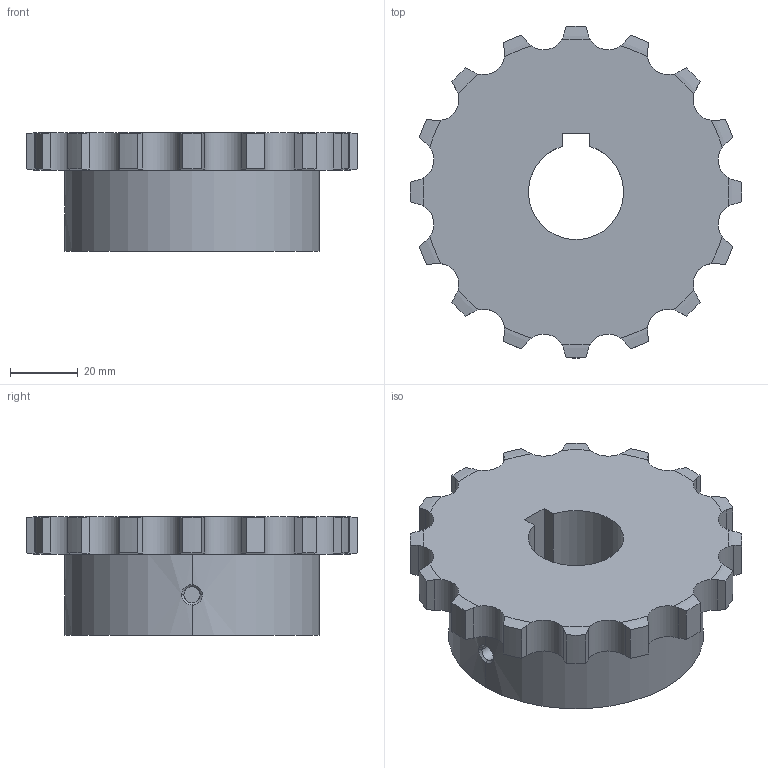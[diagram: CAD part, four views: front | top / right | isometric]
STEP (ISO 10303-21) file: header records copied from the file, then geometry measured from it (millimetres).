
FILE_DESCRIPTION((''),'2;1');
FILE_NAME('510-401-2816_PRT','2021-02-13T',('Brieden'),('Brieden'),'PRO/ENGINEER BY PARAMETRIC TECHNOLOGY CORPORATION, 2010160','PRO/ENGINEER BY PARAMETRIC TECHNOLOGY CORPORATION, 2010160','');
FILE_SCHEMA(('AUTOMOTIVE_DESIGN { 1 0 10303 214 1 1 1 1 }'));
Length unit declared in the file: millimetre
Products named in the file (1): 510-401-2816_PRT
Bounding box: 97.63 x 97.63 x 35 mm (x, y, z)
Volume: 155347.2 mm3; surface area: 25465.6 mm2
Topology: 1 solids, 1 shells, 117 faces, 333 edges, 220 vertices
Faces by surface type: cylinder 71, torus 32, plane 8, bspline 6
Entity records: 5692 total; most frequent: CARTESIAN_POINT 1765, ORIENTED_EDGE 666, DIRECTION 521, PRESENTATION_STYLE_ASSIGNMENT 334, STYLED_ITEM 334, CURVE_STYLE 333, EDGE_CURVE 333, VERTEX_POINT 220
